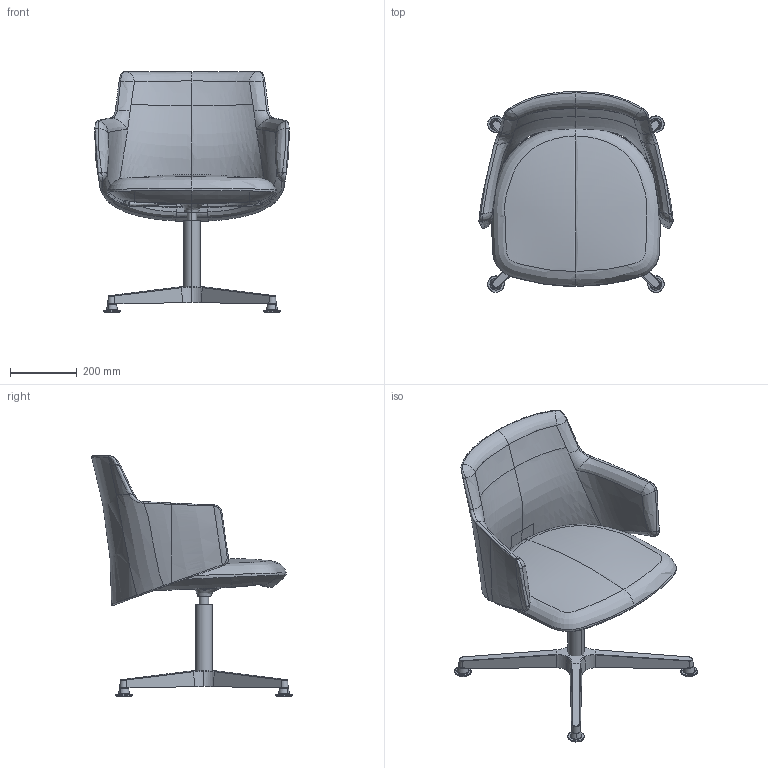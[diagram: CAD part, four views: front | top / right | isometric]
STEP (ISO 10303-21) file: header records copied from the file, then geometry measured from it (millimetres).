
FILE_DESCRIPTION(/* description */ (''),/* implementation_level */ '2;1');
FILE_NAME(/* name */ 'MELODY~1',/* time_stamp */ '2019-06-24T09:40:08+02:00',/* author */ (''),/* organization */ (''),/* preprocessor_version */ 'ST-DEVELOPER v15',/* originating_system */ '',/* authorisation */ '');
FILE_SCHEMA (('AUTOMOTIVE_DESIGN'));
Length unit declared in the file: millimetre
Products named in the file (1): Document
Bounding box: 583.87 x 602.79 x 723.07 mm (x, y, z)
Volume: 183079.5 mm3; surface area: 1676130.3 mm2
Topology: 1 solids, 17 shells, 254 faces, 683 edges, 400 vertices
Faces by surface type: bspline 224, plane 30
Entity records: 57923 total; most frequent: CARTESIAN_POINT 53879, ORIENTED_EDGE 1208, EDGE_CURVE 679, B_SPLINE_CURVE_WITH_KNOTS 548, VERTEX_POINT 400, EDGE_LOOP 262, ADVANCED_FACE 254, FACE_OUTER_BOUND 254
